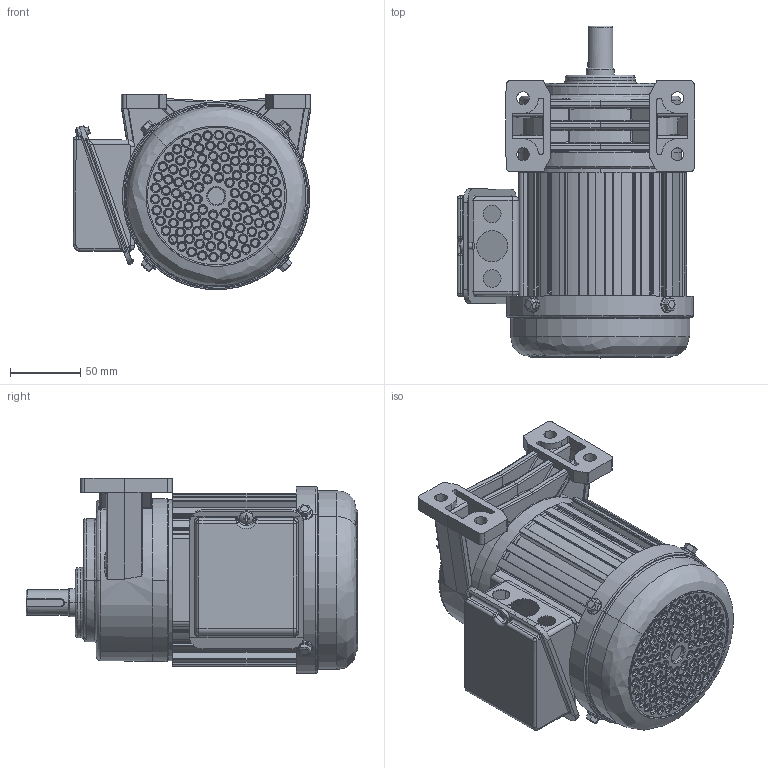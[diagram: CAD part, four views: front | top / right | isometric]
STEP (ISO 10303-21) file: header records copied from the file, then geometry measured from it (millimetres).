
FILE_DESCRIPTION (( 'STEP AP203' ), '1' );
FILE_NAME ('单相100W1#卧式.STEP', '2015-10-21T02:58:43', ( '微软中国' ), ( '微软用户' ), 'SwSTEP 2.0', 'SolidWorks 2009', '' );
FILE_SCHEMA (( 'CONFIG_CONTROL_DESIGN' ));
Products named in the file (12): 瑞欶盓殤; 100W瑞欶; Cross recessed pan head screws GB_GB_CROSS_SCREWS_TYPE1 M5X6-6  H type-N; 等眈100W諉盄碟裔; 等眈100W1#拏宒; 100W儂褲; 錨璃8^蚾饜极1; 100W綴裔; Hex Flange Bolts-Heavy Grade B GB_GB_FASTENER_BOLT_HFBB M5X10-N; 1#拏宒熬厒ん; 蚾饜极3; 等眈100W諉盄碟釱
Assembly tree (16 placements, depth 3):
  等眈100W1#拏宒
    瑞欶盓殤  x4
    100W綴裔
    Hex Flange Bolts-Heavy Grade B GB_GB_FASTENER_BOLT_HFBB M5X10-N  x4
    1#拏宒熬厒ん
    100W瑞欶
    100W儂褲
    蚾饜极3
      等眈100W諉盄碟釱
      等眈100W諉盄碟裔
      Cross recessed pan head screws GB_GB_CROSS_SCREWS_TYPE1 M5X6-6  H type-N
  錨璃8^蚾饜极1
Bounding box: 169.43 x 236.5 x 139.13 mm (x, y, z)
Volume: 810436.5 mm3; surface area: 354657.3 mm2
Topology: 15 solids, 16 shells, 1918 faces, 4990 edges, 3081 vertices
Faces by surface type: bspline 884, cylinder 580, plane 392, torus 32, cone 24, sphere 6
Entity records: 79302 total; most frequent: CARTESIAN_POINT 36658, ORIENTED_EDGE 9352, DIRECTION 7971, EDGE_CURVE 4676, AXIS2_PLACEMENT_3D 3225, VERTEX_POINT 2919, CIRCLE 2270, EDGE_LOOP 2103
